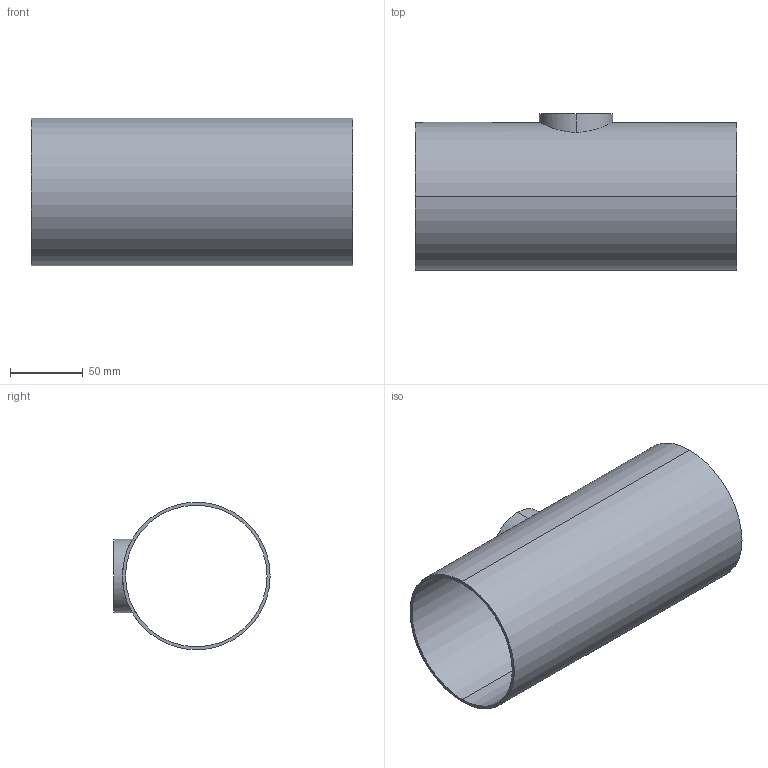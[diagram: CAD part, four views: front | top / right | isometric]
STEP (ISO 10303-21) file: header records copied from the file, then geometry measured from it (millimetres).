
FILE_DESCRIPTION (( 'STEP AP214' ), '1' );
FILE_NAME ('TEG7RS6L4.0x2.0-...STEP', '2016-05-24T11:05:18', ( 'eran' ), ( '' ), 'SwSTEP 2.0', 'SolidWorks 2016', '' );
FILE_SCHEMA (( 'AUTOMOTIVE_DESIGN' ));
Length unit declared in the file: millimetre
Products named in the file (1): TEG7RS6L4.0x2.0-..
Bounding box: 221.4 x 107.5 x 101.6 mm (x, y, z)
Volume: 144454.6 mm3; surface area: 139170.7 mm2
Topology: 1 solids, 1 shells, 11 faces, 24 edges, 16 vertices
Faces by surface type: cylinder 8, plane 3
Entity records: 622 total; most frequent: CARTESIAN_POINT 330, DIRECTION 56, ORIENTED_EDGE 48, EDGE_CURVE 24, AXIS2_PLACEMENT_3D 24, EDGE_LOOP 16, VERTEX_POINT 16, CIRCLE 12
